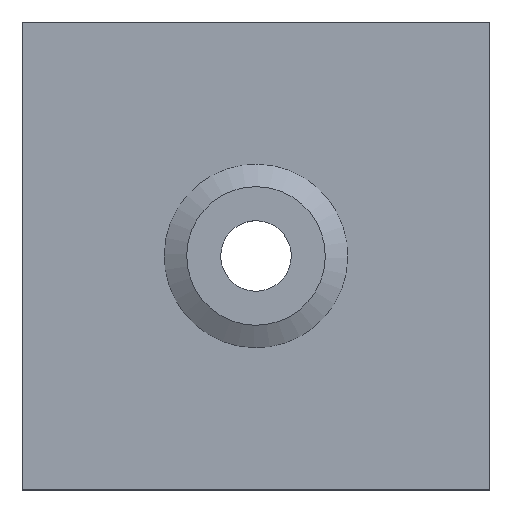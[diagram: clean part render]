
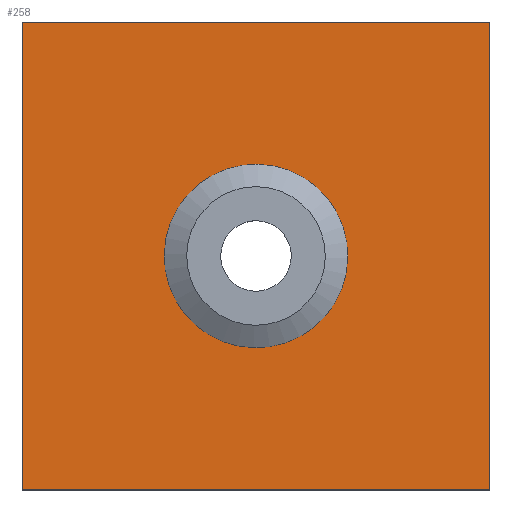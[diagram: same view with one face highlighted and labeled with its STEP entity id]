
A CAD part, top view. The second image highlights one B-rep face of the part: STEP entity #258.
In plain terms, the highlighted planar face has unit normal (0, 0, 1).
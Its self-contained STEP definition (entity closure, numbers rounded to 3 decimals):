
#19=FACE_BOUND('',#65,.T.);
#27=PLANE('',#309);
#44=FACE_OUTER_BOUND('',#64,.T.);
#64=EDGE_LOOP('',(#205,#206,#207,#208));
#65=EDGE_LOOP('',(#209));
#78=LINE('',#433,#96);
#82=LINE('',#440,#100);
#83=LINE('',#443,#101);
#84=LINE('',#444,#102);
#96=VECTOR('',#367,1.);
#100=VECTOR('',#373,1.);
#101=VECTOR('',#376,1.);
#102=VECTOR('',#377,1.);
#116=CIRCLE('',#306,70.);
#127=VERTEX_POINT('',#423);
#130=VERTEX_POINT('',#430);
#131=VERTEX_POINT('',#432);
#133=VERTEX_POINT('',#437);
#134=VERTEX_POINT('',#442);
#152=EDGE_CURVE('',#127,#127,#116,.F.);
#155=EDGE_CURVE('',#131,#130,#78,.F.);
#159=EDGE_CURVE('',#133,#131,#82,.T.);
#160=EDGE_CURVE('',#130,#134,#83,.T.);
#161=EDGE_CURVE('',#134,#133,#84,.T.);
#205=ORIENTED_EDGE('',*,*,#155,.T.);
#206=ORIENTED_EDGE('',*,*,#160,.T.);
#207=ORIENTED_EDGE('',*,*,#161,.T.);
#208=ORIENTED_EDGE('',*,*,#159,.T.);
#209=ORIENTED_EDGE('',*,*,#152,.T.);
#258=ADVANCED_FACE('',(#44,#19),#27,.T.);
#306=AXIS2_PLACEMENT_3D('',#425,#361,#362);
#309=AXIS2_PLACEMENT_3D('',#441,#374,#375);
#361=DIRECTION('center_axis',(0.,0.,1.));
#362=DIRECTION('ref_axis',(-1.,0.,0.));
#367=DIRECTION('',(1.,0.,0.));
#373=DIRECTION('',(0.,1.,0.));
#374=DIRECTION('center_axis',(0.,0.,1.));
#375=DIRECTION('ref_axis',(1.,0.,0.));
#376=DIRECTION('',(0.,-1.,0.));
#377=DIRECTION('',(1.,0.,0.));
#423=CARTESIAN_POINT('',(0.,-70.,1.25));
#425=CARTESIAN_POINT('Origin',(0.,0.,1.25));
#430=CARTESIAN_POINT('',(-248.75,248.75,1.25));
#432=CARTESIAN_POINT('',(248.75,248.75,1.25));
#433=CARTESIAN_POINT('',(0.,248.75,1.25));
#437=CARTESIAN_POINT('',(248.75,-248.75,1.25));
#440=CARTESIAN_POINT('',(248.75,0.,1.25));
#441=CARTESIAN_POINT('Origin',(0.,0.,1.25));
#442=CARTESIAN_POINT('',(-248.75,-248.75,1.25));
#443=CARTESIAN_POINT('',(-248.75,0.,1.25));
#444=CARTESIAN_POINT('',(0.,-248.75,1.25));
